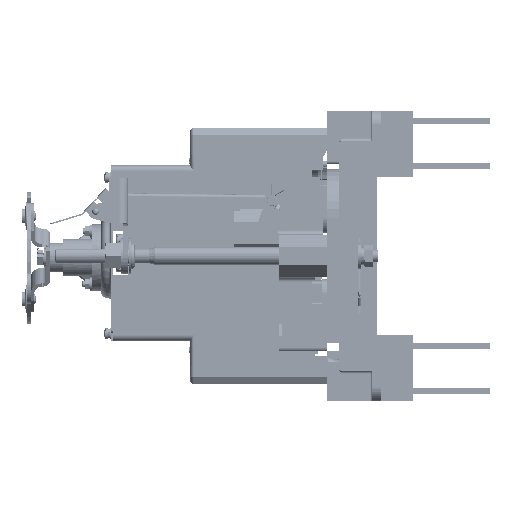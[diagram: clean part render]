
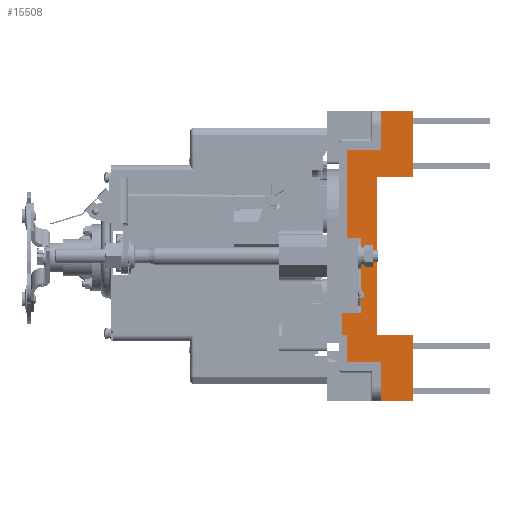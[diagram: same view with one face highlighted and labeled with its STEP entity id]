
A CAD part, left-side view. The second image highlights one B-rep face of the part: STEP entity #15508.
In plain terms, the highlighted planar face has unit normal (-1, 0, 0).
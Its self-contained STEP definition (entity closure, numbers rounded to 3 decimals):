
#1287 = CARTESIAN_POINT ( 'NONE',  ( -71.106, 117.852, 72. ) ) ;
#10940 = VERTEX_POINT ( 'NONE', #1287 ) ;
#14339 = EDGE_CURVE ( 'NONE', #14340, #14341, #14459, .T. ) ;
#14340 = VERTEX_POINT ( 'NONE', #14451 ) ;
#14341 = VERTEX_POINT ( 'NONE', #14449 ) ;
#14449 = CARTESIAN_POINT ( 'NONE',  ( -71.106, 73.352, 54. ) ) ;
#14451 = CARTESIAN_POINT ( 'NONE',  ( -71.106, 73.352, 99. ) ) ;
#14453 = DIRECTION ( 'NONE',  ( 0., 0., -1. ) ) ;
#14455 = VECTOR ( 'NONE', #14453, 1000. ) ;
#14457 = CARTESIAN_POINT ( 'NONE',  ( -71.106, 73.352, 54. ) ) ;
#14459 = LINE ( 'NONE', #14457, #14455 ) ;
#15008 = EDGE_CURVE ( 'NONE', #15010, #15145, #17027, .T. ) ;
#15010 = VERTEX_POINT ( 'NONE', #17019 ) ;
#15030 = EDGE_CURVE ( 'NONE', #15032, #15033, #17076, .T. ) ;
#15032 = VERTEX_POINT ( 'NONE', #17070 ) ;
#15033 = VERTEX_POINT ( 'NONE', #17068 ) ;
#15145 = VERTEX_POINT ( 'NONE', #17572 ) ;
#15296 = VERTEX_POINT ( 'NONE', #18256 ) ;
#15298 = EDGE_CURVE ( 'NONE', #15296, #15300, #18252, .T. ) ;
#15300 = VERTEX_POINT ( 'NONE', #18247 ) ;
#15360 = EDGE_CURVE ( 'NONE', #15402, #15361, #18569, .T. ) ;
#15361 = VERTEX_POINT ( 'NONE', #18562 ) ;
#15401 = EDGE_CURVE ( 'NONE', #15402, #15431, #18691, .T. ) ;
#15402 = VERTEX_POINT ( 'NONE', #18683 ) ;
#15413 = EDGE_CURVE ( 'NONE', #15300, #15414, #18660, .T. ) ;
#15414 = VERTEX_POINT ( 'NONE', #18652 ) ;
#15428 = EDGE_CURVE ( 'NONE', #15431, #15414, #18853, .T. ) ;
#15431 = VERTEX_POINT ( 'NONE', #18846 ) ;
#15485 = EDGE_CURVE ( 'NONE', #15145, #15361, #19066, .T. ) ;
#15498 = EDGE_CURVE ( 'NONE', #14341, #15642, #19217, .T. ) ;
#15501 = ORIENTED_EDGE ( 'NONE', *, *, #14339, .F. ) ;
#15505 = EDGE_CURVE ( 'NONE', #15010, #15560, #19207, .T. ) ;
#15508 = ADVANCED_FACE ( 'NONE', ( #19199 ), #19156, .F. ) ;
#15510 = EDGE_LOOP ( 'NONE', ( #15511, #15512, #15514, #15516, #15518, #15520, #15522, #15628, #15629, #15632, #15633, #15640, #15643, #15501, #15595, #15603, #15609, #15614 ) ) ;
#15511 = ORIENTED_EDGE ( 'NONE', *, *, #15505, .F. ) ;
#15512 = ORIENTED_EDGE ( 'NONE', *, *, #15008, .T. ) ;
#15514 = ORIENTED_EDGE ( 'NONE', *, *, #15485, .T. ) ;
#15516 = ORIENTED_EDGE ( 'NONE', *, *, #15360, .F. ) ;
#15518 = ORIENTED_EDGE ( 'NONE', *, *, #15401, .T. ) ;
#15520 = ORIENTED_EDGE ( 'NONE', *, *, #15428, .T. ) ;
#15522 = ORIENTED_EDGE ( 'NONE', *, *, #15413, .F. ) ;
#15560 = VERTEX_POINT ( 'NONE', #19428 ) ;
#15567 = EDGE_CURVE ( 'NONE', #10940, #15560, #19419, .T. ) ;
#15595 = ORIENTED_EDGE ( 'NONE', *, *, #15598, .T. ) ;
#15598 = EDGE_CURVE ( 'NONE', #14340, #15601, #19583, .T. ) ;
#15601 = VERTEX_POINT ( 'NONE', #19577 ) ;
#15603 = ORIENTED_EDGE ( 'NONE', *, *, #15605, .F. ) ;
#15605 = EDGE_CURVE ( 'NONE', #15607, #15601, #19572, .T. ) ;
#15607 = VERTEX_POINT ( 'NONE', #19565 ) ;
#15609 = ORIENTED_EDGE ( 'NONE', *, *, #15612, .T. ) ;
#15612 = EDGE_CURVE ( 'NONE', #15607, #10940, #19558, .T. ) ;
#15614 = ORIENTED_EDGE ( 'NONE', *, *, #15567, .T. ) ;
#15628 = ORIENTED_EDGE ( 'NONE', *, *, #15298, .F. ) ;
#15629 = ORIENTED_EDGE ( 'NONE', *, *, #15630, .F. ) ;
#15630 = EDGE_CURVE ( 'NONE', #15033, #15296, #19634, .T. ) ;
#15632 = ORIENTED_EDGE ( 'NONE', *, *, #15030, .F. ) ;
#15633 = ORIENTED_EDGE ( 'NONE', *, *, #15636, .T. ) ;
#15636 = EDGE_CURVE ( 'NONE', #15032, #15638, #19625, .T. ) ;
#15638 = VERTEX_POINT ( 'NONE', #19617 ) ;
#15640 = ORIENTED_EDGE ( 'NONE', *, *, #15641, .F. ) ;
#15641 = EDGE_CURVE ( 'NONE', #15642, #15638, #19611, .T. ) ;
#15642 = VERTEX_POINT ( 'NONE', #19604 ) ;
#15643 = ORIENTED_EDGE ( 'NONE', *, *, #15498, .F. ) ;
#17019 = CARTESIAN_POINT ( 'NONE',  ( -71.106, 108.852, 12. ) ) ;
#17022 = DIRECTION ( 'NONE',  ( 0., 0., -1. ) ) ;
#17023 = VECTOR ( 'NONE', #17022, 1000. ) ;
#17025 = CARTESIAN_POINT ( 'NONE',  ( -71.106, 108.852, -39. ) ) ;
#17027 = LINE ( 'NONE', #17025, #17023 ) ;
#17068 = CARTESIAN_POINT ( 'NONE',  ( -71.106, 73.352, -99. ) ) ;
#17070 = CARTESIAN_POINT ( 'NONE',  ( -71.106, 73.352, -54. ) ) ;
#17071 = DIRECTION ( 'NONE',  ( 0., 0., -1. ) ) ;
#17072 = VECTOR ( 'NONE', #17071, 1000. ) ;
#17075 = CARTESIAN_POINT ( 'NONE',  ( -71.106, 73.352, -99. ) ) ;
#17076 = LINE ( 'NONE', #17075, #17072 ) ;
#17572 = CARTESIAN_POINT ( 'NONE',  ( -71.106, 108.852, -39. ) ) ;
#18247 = CARTESIAN_POINT ( 'NONE',  ( -71.106, 94.852, -72. ) ) ;
#18248 = DIRECTION ( 'NONE',  ( 0., 0., 1. ) ) ;
#18250 = VECTOR ( 'NONE', #18248, 1000. ) ;
#18251 = CARTESIAN_POINT ( 'NONE',  ( -71.106, 94.852, -72. ) ) ;
#18252 = LINE ( 'NONE', #18251, #18250 ) ;
#18256 = CARTESIAN_POINT ( 'NONE',  ( -71.106, 94.852, -99. ) ) ;
#18562 = CARTESIAN_POINT ( 'NONE',  ( -71.106, 121.852, -39. ) ) ;
#18564 = DIRECTION ( 'NONE',  ( 0., 0., 1. ) ) ;
#18566 = VECTOR ( 'NONE', #18564, 1000. ) ;
#18567 = CARTESIAN_POINT ( 'NONE',  ( -71.106, 121.852, -53.5 ) ) ;
#18569 = LINE ( 'NONE', #18567, #18566 ) ;
#18652 = CARTESIAN_POINT ( 'NONE',  ( -71.106, 117.852, -72. ) ) ;
#18654 = DIRECTION ( 'NONE',  ( 0., 1., 0. ) ) ;
#18656 = VECTOR ( 'NONE', #18654, 1000. ) ;
#18658 = CARTESIAN_POINT ( 'NONE',  ( -71.106, 97.852, -72. ) ) ;
#18660 = LINE ( 'NONE', #18658, #18656 ) ;
#18683 = CARTESIAN_POINT ( 'NONE',  ( -71.106, 121.852, -53.5 ) ) ;
#18686 = DIRECTION ( 'NONE',  ( 0., -1., 0. ) ) ;
#18687 = VECTOR ( 'NONE', #18686, 1000. ) ;
#18689 = CARTESIAN_POINT ( 'NONE',  ( -71.106, 121.852, -53.5 ) ) ;
#18691 = LINE ( 'NONE', #18689, #18687 ) ;
#18846 = CARTESIAN_POINT ( 'NONE',  ( -71.106, 117.852, -53.5 ) ) ;
#18848 = DIRECTION ( 'NONE',  ( 0., 0., -1. ) ) ;
#18850 = VECTOR ( 'NONE', #18848, 1000. ) ;
#18852 = CARTESIAN_POINT ( 'NONE',  ( -71.106, 117.852, -72. ) ) ;
#18853 = LINE ( 'NONE', #18852, #18850 ) ;
#19061 = DIRECTION ( 'NONE',  ( 0., 1., 0. ) ) ;
#19063 = VECTOR ( 'NONE', #19061, 1000. ) ;
#19065 = CARTESIAN_POINT ( 'NONE',  ( -71.106, 110.852, -39. ) ) ;
#19066 = LINE ( 'NONE', #19065, #19063 ) ;
#19146 = DIRECTION ( 'NONE',  ( 0., 0., -1. ) ) ;
#19148 = DIRECTION ( 'NONE',  ( 1., 0., 0. ) ) ;
#19150 = CARTESIAN_POINT ( 'NONE',  ( -71.106, 97.852, -72. ) ) ;
#19151 = AXIS2_PLACEMENT_3D ( 'NONE', #19150, #19148, #19146 ) ;
#19156 = PLANE ( 'NONE',  #19151 ) ;
#19199 = FACE_OUTER_BOUND ( 'NONE', #15510, .T. ) ;
#19201 = DIRECTION ( 'NONE',  ( 0., 1., 0. ) ) ;
#19203 = VECTOR ( 'NONE', #19201, 1000. ) ;
#19205 = CARTESIAN_POINT ( 'NONE',  ( -71.106, 110.852, 12. ) ) ;
#19207 = LINE ( 'NONE', #19205, #19203 ) ;
#19212 = DIRECTION ( 'NONE',  ( 0., 1., 0. ) ) ;
#19214 = VECTOR ( 'NONE', #19212, 1000. ) ;
#19216 = CARTESIAN_POINT ( 'NONE',  ( -71.106, 43.496, 54. ) ) ;
#19217 = LINE ( 'NONE', #19216, #19214 ) ;
#19414 = DIRECTION ( 'NONE',  ( 0., 0., -1. ) ) ;
#19415 = VECTOR ( 'NONE', #19414, 1000. ) ;
#19417 = CARTESIAN_POINT ( 'NONE',  ( -71.106, 117.852, -72. ) ) ;
#19419 = LINE ( 'NONE', #19417, #19415 ) ;
#19428 = CARTESIAN_POINT ( 'NONE',  ( -71.106, 117.852, 12. ) ) ;
#19553 = DIRECTION ( 'NONE',  ( 0., 1., 0. ) ) ;
#19555 = VECTOR ( 'NONE', #19553, 1000. ) ;
#19557 = CARTESIAN_POINT ( 'NONE',  ( -71.106, 97.852, 72. ) ) ;
#19558 = LINE ( 'NONE', #19557, #19555 ) ;
#19565 = CARTESIAN_POINT ( 'NONE',  ( -71.106, 94.852, 72. ) ) ;
#19567 = DIRECTION ( 'NONE',  ( 0., 0., 1. ) ) ;
#19569 = VECTOR ( 'NONE', #19567, 1000. ) ;
#19570 = CARTESIAN_POINT ( 'NONE',  ( -71.106, 94.852, 72. ) ) ;
#19572 = LINE ( 'NONE', #19570, #19569 ) ;
#19577 = CARTESIAN_POINT ( 'NONE',  ( -71.106, 94.852, 99. ) ) ;
#19579 = DIRECTION ( 'NONE',  ( 0., 1., 0. ) ) ;
#19580 = VECTOR ( 'NONE', #19579, 1000. ) ;
#19582 = CARTESIAN_POINT ( 'NONE',  ( -71.106, 43.496, 99. ) ) ;
#19583 = LINE ( 'NONE', #19582, #19580 ) ;
#19604 = CARTESIAN_POINT ( 'NONE',  ( -71.106, 97.852, 54. ) ) ;
#19607 = DIRECTION ( 'NONE',  ( 0., 0., -1. ) ) ;
#19608 = VECTOR ( 'NONE', #19607, 1000. ) ;
#19610 = CARTESIAN_POINT ( 'NONE',  ( -71.106, 97.852, -72. ) ) ;
#19611 = LINE ( 'NONE', #19610, #19608 ) ;
#19617 = CARTESIAN_POINT ( 'NONE',  ( -71.106, 97.852, -54. ) ) ;
#19619 = DIRECTION ( 'NONE',  ( 0., 1., 0. ) ) ;
#19621 = VECTOR ( 'NONE', #19619, 1000. ) ;
#19623 = CARTESIAN_POINT ( 'NONE',  ( -71.106, 43.496, -54. ) ) ;
#19625 = LINE ( 'NONE', #19623, #19621 ) ;
#19629 = DIRECTION ( 'NONE',  ( 0., 1., 0. ) ) ;
#19631 = VECTOR ( 'NONE', #19629, 1000. ) ;
#19633 = CARTESIAN_POINT ( 'NONE',  ( -71.106, 43.496, -99. ) ) ;
#19634 = LINE ( 'NONE', #19633, #19631 ) ;
